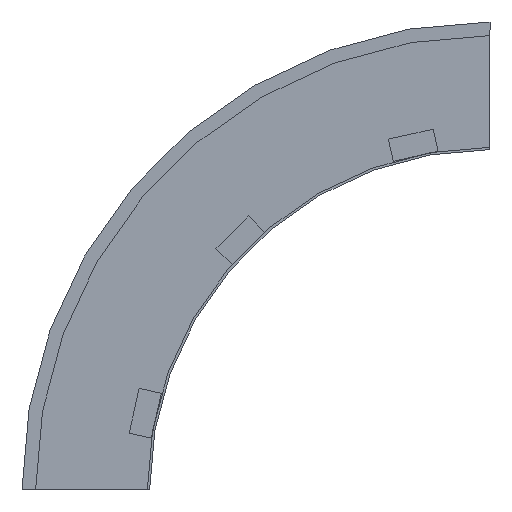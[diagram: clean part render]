
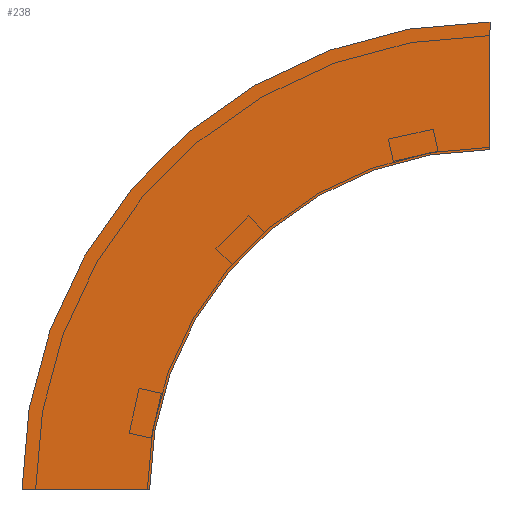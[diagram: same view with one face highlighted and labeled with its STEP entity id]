
A CAD part, left-side view. The second image highlights one B-rep face of the part: STEP entity #238.
In plain terms, the highlighted planar face has unit normal (-1, 0, 0) as drawn and (1, 0, 0) by its records, which use the part's own axes.
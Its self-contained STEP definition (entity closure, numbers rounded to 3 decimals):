
#34 = CIRCLE ( 'NONE', #217, 412.5 ) ;
#43 = AXIS2_PLACEMENT_3D ( 'NONE', #62, #373, #559 ) ;
#57 = CARTESIAN_POINT ( 'NONE',  ( 0., -300., 300. ) ) ;
#59 = FACE_OUTER_BOUND ( 'NONE', #123, .T. ) ;
#62 = CARTESIAN_POINT ( 'NONE',  ( 0., -300., 0. ) ) ;
#104 = PLANE ( 'NONE',  #251 ) ;
#118 = ORIENTED_EDGE ( 'NONE', *, *, #520, .F. ) ;
#123 = EDGE_LOOP ( 'NONE', ( #227, #118, #213, #284 ) ) ;
#152 = CARTESIAN_POINT ( 'NONE',  ( 0., -300., 300. ) ) ;
#164 = VECTOR ( 'NONE', #449, 1000. ) ;
#205 = EDGE_CURVE ( 'NONE', #358, #332, #388, .T. ) ;
#207 = CARTESIAN_POINT ( 'NONE',  ( 0., 0., 0. ) ) ;
#213 = ORIENTED_EDGE ( 'NONE', *, *, #263, .F. ) ;
#217 = AXIS2_PLACEMENT_3D ( 'NONE', #463, #411, #248 ) ;
#227 = ORIENTED_EDGE ( 'NONE', *, *, #510, .T. ) ;
#238 = ADVANCED_FACE ( 'NONE', ( #59 ), #104, .T. ) ;
#248 = DIRECTION ( 'NONE',  ( 0., 1., 0. ) ) ;
#251 = AXIS2_PLACEMENT_3D ( 'NONE', #207, #469, #288 ) ;
#253 = CARTESIAN_POINT ( 'NONE',  ( 0., -300., 412.5 ) ) ;
#263 = EDGE_CURVE ( 'NONE', #358, #552, #364, .T. ) ;
#284 = ORIENTED_EDGE ( 'NONE', *, *, #205, .T. ) ;
#288 = DIRECTION ( 'NONE',  ( 0., 0., -1. ) ) ;
#298 = CARTESIAN_POINT ( 'NONE',  ( 0., 0., 0. ) ) ;
#308 = VERTEX_POINT ( 'NONE', #253 ) ;
#332 = VERTEX_POINT ( 'NONE', #551 ) ;
#358 = VERTEX_POINT ( 'NONE', #298 ) ;
#364 = CIRCLE ( 'NONE', #43, 300. ) ;
#373 = DIRECTION ( 'NONE',  ( 1., 0., 0. ) ) ;
#384 = CARTESIAN_POINT ( 'NONE',  ( 0., 0., 0. ) ) ;
#388 = LINE ( 'NONE', #384, #414 ) ;
#411 = DIRECTION ( 'NONE',  ( 1., 0., 0. ) ) ;
#414 = VECTOR ( 'NONE', #421, 1000. ) ;
#421 = DIRECTION ( 'NONE',  ( 0., 1., 0. ) ) ;
#449 = DIRECTION ( 'NONE',  ( 0., 0., 1. ) ) ;
#463 = CARTESIAN_POINT ( 'NONE',  ( 0., -300., 0. ) ) ;
#469 = DIRECTION ( 'NONE',  ( 1., 0., 0. ) ) ;
#510 = EDGE_CURVE ( 'NONE', #332, #308, #34, .T. ) ;
#520 = EDGE_CURVE ( 'NONE', #552, #308, #550, .T. ) ;
#550 = LINE ( 'NONE', #152, #164 ) ;
#551 = CARTESIAN_POINT ( 'NONE',  ( 0., 112.5, 0. ) ) ;
#552 = VERTEX_POINT ( 'NONE', #57 ) ;
#559 = DIRECTION ( 'NONE',  ( 0., 1., 0. ) ) ;
